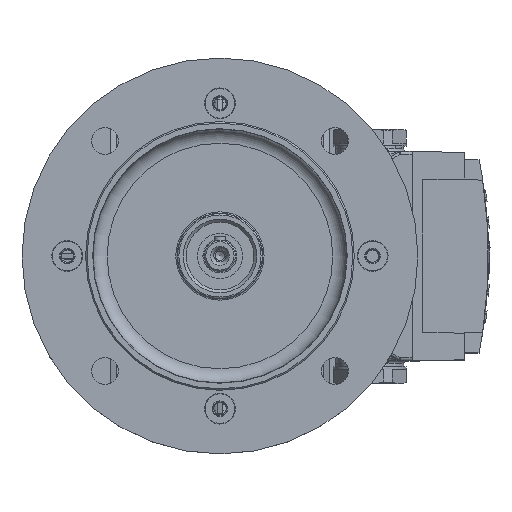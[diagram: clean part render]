
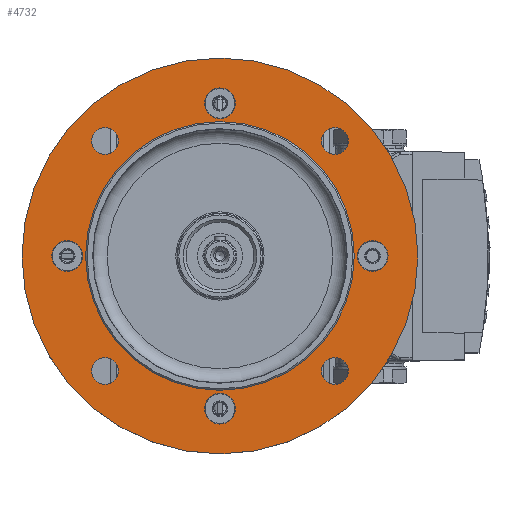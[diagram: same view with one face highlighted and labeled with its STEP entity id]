
A CAD part, top view. The second image highlights one B-rep face of the part: STEP entity #4732.
In plain terms, the highlighted planar face has unit normal (0, 0, 1) as drawn and (-1, 0, 0) by its records, which use the part's own axes.
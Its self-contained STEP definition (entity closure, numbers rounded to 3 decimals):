
#4732=ADVANCED_FACE('POS4',(#8470,#8471,#8472,#8473,#8474,#8475,#8476,#8477,
#8478,#8479),#6733,.T.);
#6733=PLANE('',#35825);
#8470=FACE_BOUND('',#9265,.T.);
#8471=FACE_BOUND('',#9266,.T.);
#8472=FACE_BOUND('',#9267,.T.);
#8473=FACE_BOUND('',#9268,.T.);
#8474=FACE_BOUND('',#9269,.T.);
#8475=FACE_BOUND('',#9270,.T.);
#8476=FACE_BOUND('',#9271,.T.);
#8477=FACE_BOUND('',#9272,.T.);
#8478=FACE_BOUND('',#9273,.T.);
#8479=FACE_BOUND('',#9274,.T.);
#9265=EDGE_LOOP('',(#16628));
#9266=EDGE_LOOP('',(#16629));
#9267=EDGE_LOOP('',(#16630));
#9268=EDGE_LOOP('',(#16631));
#9269=EDGE_LOOP('',(#16632));
#9270=EDGE_LOOP('',(#16633));
#9271=EDGE_LOOP('',(#16634));
#9272=EDGE_LOOP('',(#16635));
#9273=EDGE_LOOP('',(#16636));
#9274=EDGE_LOOP('',(#16637));
#16628=ORIENTED_EDGE('',*,*,#29377,.F.);
#16629=ORIENTED_EDGE('',*,*,#29378,.F.);
#16630=ORIENTED_EDGE('',*,*,#29379,.F.);
#16631=ORIENTED_EDGE('',*,*,#29380,.F.);
#16632=ORIENTED_EDGE('',*,*,#29381,.T.);
#16633=ORIENTED_EDGE('',*,*,#29382,.T.);
#16634=ORIENTED_EDGE('',*,*,#29383,.T.);
#16635=ORIENTED_EDGE('',*,*,#29384,.T.);
#16636=ORIENTED_EDGE('',*,*,#29376,.T.);
#16637=ORIENTED_EDGE('',*,*,#29385,.F.);
#25933=VERTEX_POINT('',#52380);
#25934=VERTEX_POINT('',#52383);
#25935=VERTEX_POINT('',#52385);
#25936=VERTEX_POINT('',#52387);
#25937=VERTEX_POINT('',#52389);
#25938=VERTEX_POINT('',#52391);
#25939=VERTEX_POINT('',#52393);
#25940=VERTEX_POINT('',#52395);
#25941=VERTEX_POINT('',#52397);
#25942=VERTEX_POINT('',#52399);
#29376=EDGE_CURVE('',#25933,#25933,#33897,.T.);
#29377=EDGE_CURVE('',#25934,#25934,#33898,.T.);
#29378=EDGE_CURVE('',#25935,#25935,#33899,.T.);
#29379=EDGE_CURVE('',#25936,#25936,#33900,.T.);
#29380=EDGE_CURVE('',#25937,#25937,#33901,.T.);
#29381=EDGE_CURVE('',#25938,#25938,#33902,.T.);
#29382=EDGE_CURVE('',#25939,#25939,#33903,.T.);
#29383=EDGE_CURVE('',#25940,#25940,#33904,.T.);
#29384=EDGE_CURVE('',#25941,#25941,#33905,.T.);
#29385=EDGE_CURVE('',#25942,#25942,#33906,.T.);
#33897=CIRCLE('',#35814,70.);
#33898=CIRCLE('',#35816,4.75);
#33899=CIRCLE('',#35817,4.75);
#33900=CIRCLE('',#35818,4.75);
#33901=CIRCLE('',#35819,4.75);
#33902=CIRCLE('',#35820,5.433);
#33903=CIRCLE('',#35821,5.433);
#33904=CIRCLE('',#35822,5.433);
#33905=CIRCLE('',#35823,5.433);
#33906=CIRCLE('',#35824,47.5);
#35814=AXIS2_PLACEMENT_3D('',#52379,#40484,#40485);
#35816=AXIS2_PLACEMENT_3D('',#52382,#40488,#40489);
#35817=AXIS2_PLACEMENT_3D('',#52384,#40490,#40491);
#35818=AXIS2_PLACEMENT_3D('',#52386,#40492,#40493);
#35819=AXIS2_PLACEMENT_3D('',#52388,#40494,#40495);
#35820=AXIS2_PLACEMENT_3D('',#52390,#40496,#40497);
#35821=AXIS2_PLACEMENT_3D('',#52392,#40498,#40499);
#35822=AXIS2_PLACEMENT_3D('',#52394,#40500,#40501);
#35823=AXIS2_PLACEMENT_3D('',#52396,#40502,#40503);
#35824=AXIS2_PLACEMENT_3D('',#52398,#40504,#40505);
#35825=AXIS2_PLACEMENT_3D('',#52400,#40506,#40507);
#40484=DIRECTION('',(-1.,0.,0.));
#40485=DIRECTION('',(0.,0.,1.));
#40488=DIRECTION('',(-1.,0.,0.));
#40489=DIRECTION('',(0.,0.,1.));
#40490=DIRECTION('',(-1.,0.,0.));
#40491=DIRECTION('',(0.,0.,1.));
#40492=DIRECTION('',(-1.,0.,0.));
#40493=DIRECTION('',(0.,0.,1.));
#40494=DIRECTION('',(-1.,0.,0.));
#40495=DIRECTION('',(0.,0.,1.));
#40496=DIRECTION('',(1.,0.,0.));
#40497=DIRECTION('',(0.,0.,1.));
#40498=DIRECTION('',(1.,0.,0.));
#40499=DIRECTION('',(0.,0.,1.));
#40500=DIRECTION('',(1.,0.,0.));
#40501=DIRECTION('',(0.,0.,1.));
#40502=DIRECTION('',(1.,0.,0.));
#40503=DIRECTION('',(0.,0.,1.));
#40504=DIRECTION('',(-1.,0.,0.));
#40505=DIRECTION('',(0.,0.,1.));
#40506=DIRECTION('',(-1.,0.,0.));
#40507=DIRECTION('',(0.,0.,1.));
#52379=CARTESIAN_POINT('',(3.,0.,0.));
#52380=CARTESIAN_POINT('',(3.,0.,70.));
#52382=CARTESIAN_POINT('',(3.,40.659,40.659));
#52383=CARTESIAN_POINT('',(3.,40.659,45.409));
#52384=CARTESIAN_POINT('',(3.,40.659,-40.659));
#52385=CARTESIAN_POINT('',(3.,40.659,-35.909));
#52386=CARTESIAN_POINT('',(3.,-40.659,-40.659));
#52387=CARTESIAN_POINT('',(3.,-40.659,-35.909));
#52388=CARTESIAN_POINT('',(3.,-40.659,40.659));
#52389=CARTESIAN_POINT('',(3.,-40.659,45.409));
#52390=CARTESIAN_POINT('',(3.,0.,-54.));
#52391=CARTESIAN_POINT('',(3.,0.,-48.567));
#52392=CARTESIAN_POINT('',(3.,-54.,0.));
#52393=CARTESIAN_POINT('',(3.,-54.,5.433));
#52394=CARTESIAN_POINT('',(3.,0.,54.));
#52395=CARTESIAN_POINT('',(3.,0.,59.433));
#52396=CARTESIAN_POINT('',(3.,54.,0.));
#52397=CARTESIAN_POINT('',(3.,54.,5.433));
#52398=CARTESIAN_POINT('',(3.,0.,0.));
#52399=CARTESIAN_POINT('',(3.,0.,47.5));
#52400=CARTESIAN_POINT('',(3.,47.5,0.));
